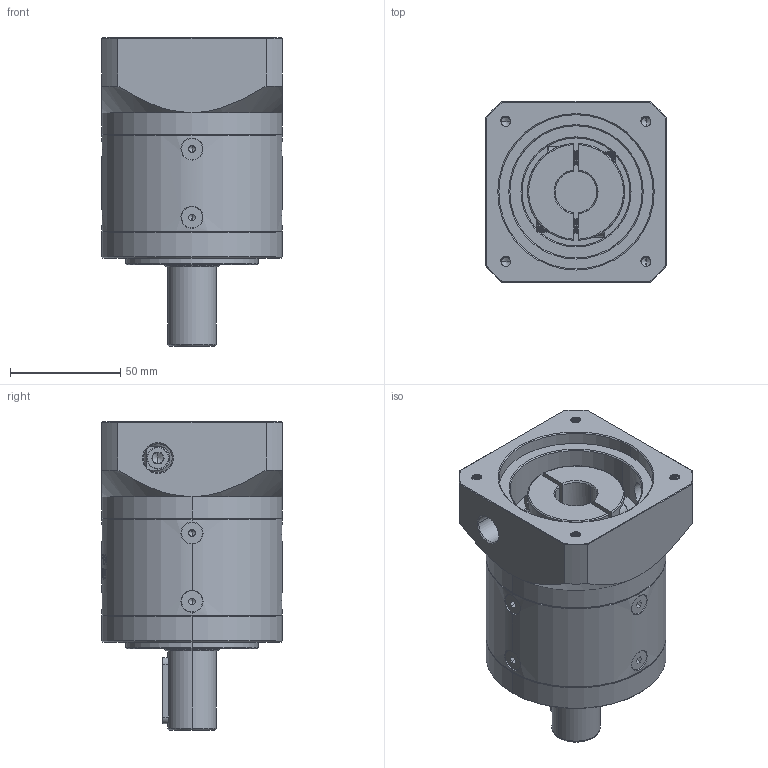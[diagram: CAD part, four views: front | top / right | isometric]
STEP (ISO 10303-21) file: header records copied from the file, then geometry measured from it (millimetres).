
FILE_DESCRIPTION (( 'STEP AP214' ), '1' );
FILE_NAME ('ZE080-D22-L1-P2-19-70-90-M5.step', '2023-08-25T09:40:38', ( '' ), ( '' ), 'SwSTEP 2.0', 'SolidWorks 2016', '' );
FILE_SCHEMA (( 'AUTOMOTIVE_DESIGN' ));
Length unit declared in the file: millimetre
Products named in the file (1): ZE080-D22-L1-P2-19-70-90-M5
Bounding box: 82 x 82 x 140 mm (x, y, z)
Volume: 509105 mm3; surface area: 81952.7 mm2
Topology: 13 solids, 13 shells, 2218 faces, 5838 edges, 3713 vertices
Faces by surface type: plane 1054, cylinder 407, bspline 397, cone 323, torus 37
Entity records: 121212 total; most frequent: CARTESIAN_POINT 47279, ORIENTED_EDGE 11600, DIRECTION 8511, EDGE_CURVE 5800, VERTEX_POINT 3713, LINE 3069, VECTOR 3069, AXIS2_PLACEMENT_3D 2721
